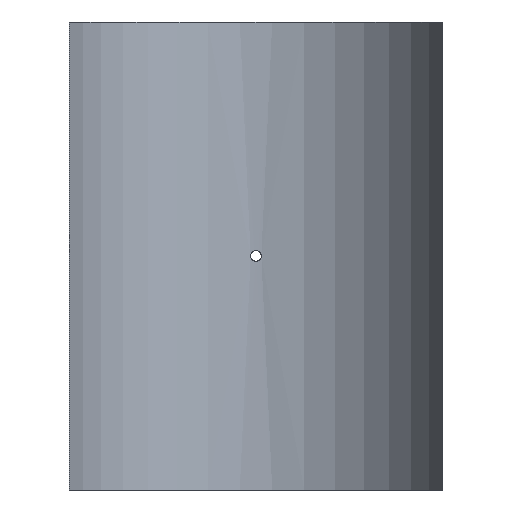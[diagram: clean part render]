
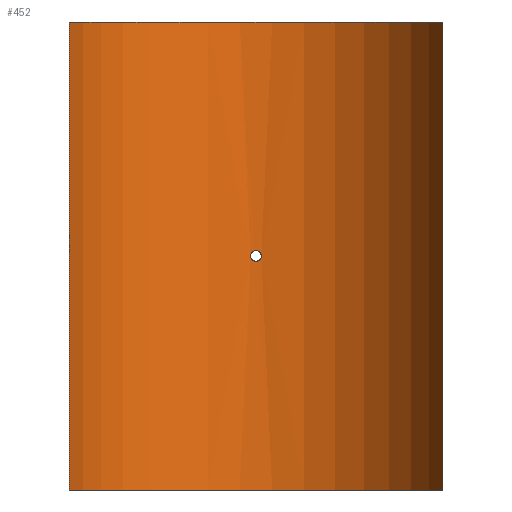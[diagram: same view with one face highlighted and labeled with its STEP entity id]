
A CAD part, front view. The second image highlights one B-rep face of the part: STEP entity #452.
In plain terms, the highlighted cylindrical face has radius 177.5 mm (diameter 355 mm), a partial arc.
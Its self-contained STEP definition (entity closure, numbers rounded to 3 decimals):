
#19=B_SPLINE_CURVE_WITH_KNOTS('',3,(#788,#789,#790,#791,#792,#793,#794,
#795,#796,#797,#798,#799,#800,#801,#802,#803,#804,#805,#806,#807,#808,#809,
#810,#811,#812,#813,#814,#815,#816,#817,#818,#819,#820,#821),
 .UNSPECIFIED.,.T.,.F.,(4,2,2,2,2,2,2,2,2,2,2,2,2,2,2,2,4),(0.,0.181,
0.362,0.542,0.723,0.904,
1.085,1.266,1.447,1.627,1.808,
1.989,2.17,2.351,2.531,2.712,
2.893),.UNSPECIFIED.);
#43=LINE('',#1073,#62);
#44=LINE('',#1076,#63);
#62=VECTOR('',#661,10.);
#63=VECTOR('',#664,10.);
#76=CYLINDRICAL_SURFACE('',#530,177.5);
#88=FACE_BOUND('',#167,.T.);
#127=FACE_OUTER_BOUND('',#166,.T.);
#166=EDGE_LOOP('',(#405,#406,#407,#408));
#167=EDGE_LOOP('',(#409));
#201=CIRCLE('',#529,177.5);
#202=CIRCLE('',#531,177.5);
#219=VERTEX_POINT('',#786);
#242=VERTEX_POINT('',#1066);
#243=VERTEX_POINT('',#1068);
#244=VERTEX_POINT('',#1072);
#245=VERTEX_POINT('',#1074);
#267=EDGE_CURVE('',#219,#219,#19,.T.);
#299=EDGE_CURVE('',#242,#243,#201,.T.);
#301=EDGE_CURVE('',#244,#242,#43,.T.);
#302=EDGE_CURVE('',#245,#244,#202,.T.);
#303=EDGE_CURVE('',#245,#243,#44,.T.);
#405=ORIENTED_EDGE('',*,*,#301,.F.);
#406=ORIENTED_EDGE('',*,*,#302,.F.);
#407=ORIENTED_EDGE('',*,*,#303,.T.);
#408=ORIENTED_EDGE('',*,*,#299,.F.);
#409=ORIENTED_EDGE('',*,*,#267,.T.);
#452=ADVANCED_FACE('',(#127,#88),#76,.F.);
#529=AXIS2_PLACEMENT_3D('',#1069,#656,#657);
#530=AXIS2_PLACEMENT_3D('',#1071,#659,#660);
#531=AXIS2_PLACEMENT_3D('',#1075,#662,#663);
#656=DIRECTION('center_axis',(0.,0.,1.));
#657=DIRECTION('ref_axis',(0.944,0.331,0.));
#659=DIRECTION('center_axis',(0.,0.,1.));
#660=DIRECTION('ref_axis',(0.944,0.331,0.));
#661=DIRECTION('',(0.,0.,-1.));
#662=DIRECTION('center_axis',(0.,0.,-1.));
#663=DIRECTION('ref_axis',(0.944,0.331,0.));
#664=DIRECTION('',(0.,0.,-1.));
#786=CARTESIAN_POINT('',(4.8,177.435,0.));
#788=CARTESIAN_POINT('Ctrl Pts',(4.8,177.435,0.));
#789=CARTESIAN_POINT('Ctrl Pts',(4.8,177.435,-0.603));
#790=CARTESIAN_POINT('Ctrl Pts',(4.68,177.438,-1.246));
#791=CARTESIAN_POINT('Ctrl Pts',(4.19,177.451,-2.428));
#792=CARTESIAN_POINT('Ctrl Pts',(3.82,177.459,-2.968));
#793=CARTESIAN_POINT('Ctrl Pts',(2.968,177.476,-3.82));
#794=CARTESIAN_POINT('Ctrl Pts',(2.428,177.484,-4.19));
#795=CARTESIAN_POINT('Ctrl Pts',(1.246,177.497,-4.68));
#796=CARTESIAN_POINT('Ctrl Pts',(0.603,177.5,-4.8));
#797=CARTESIAN_POINT('Ctrl Pts',(-0.603,177.5,-4.8));
#798=CARTESIAN_POINT('Ctrl Pts',(-1.246,177.497,-4.68));
#799=CARTESIAN_POINT('Ctrl Pts',(-2.428,177.484,-4.19));
#800=CARTESIAN_POINT('Ctrl Pts',(-2.968,177.476,-3.82));
#801=CARTESIAN_POINT('Ctrl Pts',(-3.82,177.459,-2.968));
#802=CARTESIAN_POINT('Ctrl Pts',(-4.19,177.451,-2.428));
#803=CARTESIAN_POINT('Ctrl Pts',(-4.68,177.438,-1.246));
#804=CARTESIAN_POINT('Ctrl Pts',(-4.8,177.435,-0.603));
#805=CARTESIAN_POINT('Ctrl Pts',(-4.8,177.435,0.603));
#806=CARTESIAN_POINT('Ctrl Pts',(-4.68,177.438,1.246));
#807=CARTESIAN_POINT('Ctrl Pts',(-4.19,177.451,2.428));
#808=CARTESIAN_POINT('Ctrl Pts',(-3.82,177.459,2.968));
#809=CARTESIAN_POINT('Ctrl Pts',(-2.968,177.476,3.82));
#810=CARTESIAN_POINT('Ctrl Pts',(-2.428,177.484,4.19));
#811=CARTESIAN_POINT('Ctrl Pts',(-1.246,177.497,4.68));
#812=CARTESIAN_POINT('Ctrl Pts',(-0.603,177.5,4.8));
#813=CARTESIAN_POINT('Ctrl Pts',(0.603,177.5,4.8));
#814=CARTESIAN_POINT('Ctrl Pts',(1.246,177.497,4.68));
#815=CARTESIAN_POINT('Ctrl Pts',(2.428,177.484,4.19));
#816=CARTESIAN_POINT('Ctrl Pts',(2.968,177.476,3.82));
#817=CARTESIAN_POINT('Ctrl Pts',(3.82,177.459,2.968));
#818=CARTESIAN_POINT('Ctrl Pts',(4.19,177.451,2.428));
#819=CARTESIAN_POINT('Ctrl Pts',(4.68,177.438,1.246));
#820=CARTESIAN_POINT('Ctrl Pts',(4.8,177.435,0.603));
#821=CARTESIAN_POINT('Ctrl Pts',(4.8,177.435,0.));
#1066=CARTESIAN_POINT('',(167.5,58.737,-210.));
#1068=CARTESIAN_POINT('',(-167.5,58.737,-210.));
#1069=CARTESIAN_POINT('Origin',(0.,0.,
-210.));
#1071=CARTESIAN_POINT('Origin',(0.,0.,
0.));
#1072=CARTESIAN_POINT('',(167.5,58.737,210.));
#1073=CARTESIAN_POINT('',(167.5,58.737,0.));
#1074=CARTESIAN_POINT('',(-167.5,58.737,210.));
#1075=CARTESIAN_POINT('Origin',(0.,0.,
210.));
#1076=CARTESIAN_POINT('',(-167.5,58.737,0.));
